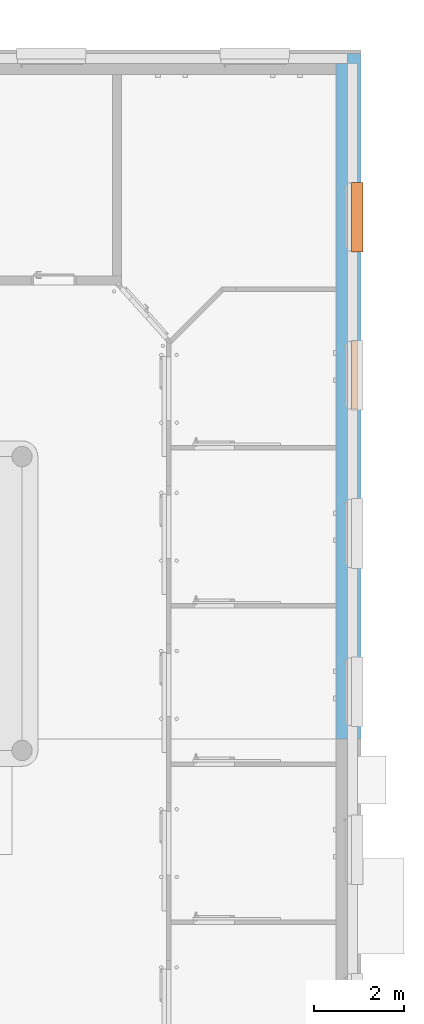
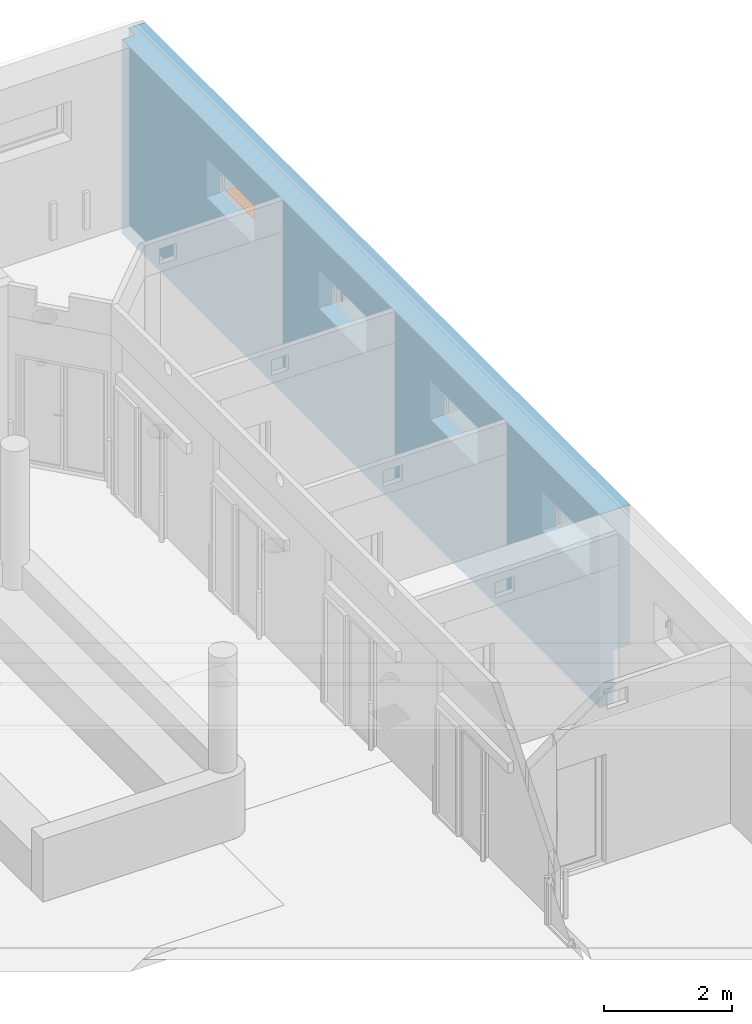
# One storey, part 119 of 140: 2 proxies, 4 openings, plus 1 element that does not belong to this part.
"""IFC4 building model written with IfcOpenShell, lengths in metres."""

from ifc_helpers import new_model, entity, si_unit, converted_unit, derived_unit, frame, origin, origin_with_axes, place, context, subcontext, project, spatial, polyline, outline, extrude, clip, bounded_halfspace, faceted_brep, source, transform, mapped, material, layer, layer_set, layer_usage, element, fill, save


model = new_model("IFC4")

# Units and contexts
model_context = context("Model", 3, precision=1e-05, world=origin())
body_context = subcontext(model_context, "Body", "Model", "MODEL_VIEW")
ifc_project = project(units=[si_unit("LENGTHUNIT", "METRE"), si_unit("AREAUNIT", "SQUARE_METRE"), si_unit("VOLUMEUNIT", "CUBIC_METRE"), si_unit("MASSUNIT", "GRAM", prefix="KILO"), converted_unit("PLANEANGLEUNIT", "DEGREE", entity("IfcPlaneAngleMeasure", 0.0174532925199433), si_unit("PLANEANGLEUNIT", "RADIAN"), dimensions=[0, 0, 0, 0, 0, 0, 0]), derived_unit("THERMALTRANSMITTANCEUNIT", [(si_unit("POWERUNIT", "WATT"), 1), (si_unit("THERMODYNAMICTEMPERATUREUNIT", "KELVIN"), -1), (si_unit("LENGTHUNIT", "METRE"), -2)]), derived_unit("VOLUMETRICFLOWRATEUNIT", [(si_unit("LENGTHUNIT", "METRE"), 3), (converted_unit("TIMEUNIT", "hour", entity("IfcTimeMeasure", 3600.0), si_unit("TIMEUNIT", "SECOND"), dimensions=[0, 0, 1, 0, 0, 0, 0]), -1), (si_unit("LENGTHUNIT", "METRE"), -1)])], contexts=[model_context])

# Site, building, storey
site_placement = place(None, origin())
site = spatial("IfcSite", under=ifc_project, at=site_placement, Name="3. ASŘ", CompositionType="ELEMENT")
building_placement = place(site_placement, origin())
building = spatial("IfcBuilding", under=site, at=building_placement, Name="Pavilon C", CompositionType="ELEMENT")
storey_placement = place(building_placement, origin())
storey = spatial("IfcBuildingStorey", under=building, at=storey_placement, Name="Půdorys 1.NP", CompositionType="ELEMENT", Elevation=0.0)

# Wall, openings, proxies
ifc_material_1 = material(Name="ZELEZOBETONOVÁ KCE")
ifc_layer_1 = layer(ifc_material_1, 0.25)
ifc_material_2 = material(Name="MINERÁLNÍ VATA")
ifc_layer_2 = layer(ifc_material_2, 0.3)
ifc_layer_set = layer_set([ifc_layer_1, ifc_layer_2])
ifc_layer_usage = layer_usage(ifc_layer_set, "AXIS2", "POSITIVE", 0.0)
wall_placement = place(storey_placement, frame((63.55, 32.55, -0.3), z_axis=(0.0, 0.0, 1.0), x_axis=(0.0, -1.0, 0.0)))
wall = element("IfcWall", 1, at=wall_placement, inside=storey, material=ifc_layer_usage, Name="ZELEZOBETONOVÁ KCE", context=body_context, shape_type="Clipping", body=[
    clip(extrude(outline(polyline([(-15.17, 0.55), (-15.17, 0.25), (-14.95, 0.25), (-14.95, 0.0), (0.0, 0.0), (0.0, 0.55), (-15.17, 0.55)])), frame((14.95, 0.0, 0.0), z_axis=(0.0, 0.0, 1.0), x_axis=(1.0, 0.0, 0.0)), (0.0, 0.0, 1.0), 3.7), bounded_halfspace(frame((5.892, 0.37, 1.02), z_axis=(0.0, 0.0, 1.0), x_axis=(0.0, -1.0, 0.0)), True, origin_with_axes(), polyline([(-0.22, 0.55), (-0.22, 0.25), (0.0, 0.249999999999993), (14.95, 0.249999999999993), (14.95, 0.55), (-0.22, 0.55)]))),
])
opening_1_placement = place(wall_placement, frame((11.15, 0.25, 2.3), z_axis=(0.0, -1.0, 0.0), x_axis=(0.0, 0.0, 1.0)))
element("IfcOpeningElement", 2, at=opening_1_placement, cuts=wall, Name="Okenní otvor", ObjectType="Opening", context=body_context, shape_type="SweptSolid", body=[
    extrude(outline(polyline([(0.0, 1.5), (0.75, 1.5), (0.75, 0.0), (0.0, 0.0), (0.0, 1.5)])), origin_with_axes(), (0.0, 0.0, 1.0), 0.25),
    extrude(outline(polyline([(0.0, 1.5), (0.75, 1.5), (0.75, 0.0), (0.0, 0.0), (0.0, 1.5)])), frame((0.0, 0.0, -0.3), z_axis=(0.0, 0.0, 1.0), x_axis=(1.0, 0.0, 0.0)), (0.0, 0.0, 1.0), 0.3),
])
opening_2_placement = place(wall_placement, frame((7.65000000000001, 0.25, 2.3), z_axis=(0.0, -1.0, 0.0), x_axis=(0.0, 0.0, 1.0)))
opening_2 = element("IfcOpeningElement", 3, at=opening_2_placement, cuts=wall, Name="Okenní otvor", ObjectType="Opening", context=body_context, shape_type="SweptSolid", body=[
    extrude(outline(polyline([(0.0, 1.5), (0.75, 1.5), (0.75, 0.0), (0.0, 0.0), (0.0, 1.5)])), origin_with_axes(), (0.0, 0.0, 1.0), 0.25),
    extrude(outline(polyline([(0.0, 1.5), (0.75, 1.5), (0.75, 0.0), (0.0, 0.0), (0.0, 1.5)])), frame((0.0, 0.0, -0.3), z_axis=(0.0, 0.0, 1.0), x_axis=(1.0, 0.0, 0.0)), (0.0, 0.0, 1.0), 0.3),
])
opening_3_placement = place(wall_placement, frame((4.15000000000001, 0.25, 2.3), z_axis=(0.0, -1.0, 0.0), x_axis=(0.0, 0.0, 1.0)))
opening_3 = element("IfcOpeningElement", 4, at=opening_3_placement, cuts=wall, Name="Okenní otvor", ObjectType="Opening", context=body_context, shape_type="SweptSolid", body=[
    extrude(outline(polyline([(0.0, 1.5), (0.75, 1.5), (0.75, 0.0), (0.0, 0.0), (0.0, 1.5)])), origin_with_axes(), (0.0, 0.0, 1.0), 0.25),
    extrude(outline(polyline([(0.0, 1.5), (0.75, 1.5), (0.75, 0.0), (0.0, 0.0), (0.0, 1.5)])), frame((0.0, 0.0, -0.3), z_axis=(0.0, 0.0, 1.0), x_axis=(1.0, 0.0, 0.0)), (0.0, 0.0, 1.0), 0.3),
])
opening_4_placement = place(wall_placement, frame((14.65, 0.25, 2.3), z_axis=(0.0, -1.0, 0.0), x_axis=(0.0, 0.0, 1.0)))
element("IfcOpeningElement", 5, at=opening_4_placement, cuts=wall, Name="Okenní otvor", ObjectType="Opening", context=body_context, shape_type="SweptSolid", body=[
    extrude(outline(polyline([(0.0, 1.5), (0.75, 1.5), (0.75, 0.0), (0.0, 0.0), (0.0, 1.5)])), origin_with_axes(), (0.0, 0.0, 1.0), 0.25),
    extrude(outline(polyline([(0.0, 1.5), (0.75, 1.5), (0.75, 0.0), (0.0, 0.0), (0.0, 1.5)])), frame((0.0, 0.0, -0.3), z_axis=(0.0, 0.0, 1.0), x_axis=(1.0, 0.0, 0.0)), (0.0, 0.0, 1.0), 0.3),
])
shared_shape_1 = source(origin_with_axes(), body_context, "Body", "Brep", [
    faceted_brep([(-7.27595761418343e-15, -0.231999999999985, 0.75), (-7.27595761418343e-15, -0.229999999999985, 0.75), (-7.27595761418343e-15, -0.229999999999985, 0.948), (-7.27595761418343e-15, -0.0939999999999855, 0.948), (-7.27595761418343e-15, -0.0939999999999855, 0.75), (-7.27595761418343e-15, -0.0919999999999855, 0.75), (-7.27595761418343e-15, -0.0919999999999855, 0.95), (-7.27595761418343e-15, -0.231999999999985, 0.95), (1.49999999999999, -0.229999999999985, 0.75), (1.49999999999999, -0.231999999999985, 0.75), (1.49999999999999, -0.231999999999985, 0.95), (1.49999999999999, -0.0919999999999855, 0.95), (1.49999999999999, -0.0919999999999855, 0.75), (1.49999999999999, -0.0939999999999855, 0.75), (1.49999999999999, -0.0939999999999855, 0.948), (1.49999999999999, -0.229999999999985, 0.948)], [[[0, 1, 2, 3, 4, 5, 6, 7]], [[8, 9, 10, 11, 12, 13, 14, 15]], [[1, 0, 9, 8]], [[2, 1, 8, 15]], [[3, 2, 15, 14]], [[4, 3, 14, 13]], [[5, 4, 13, 12]], [[6, 5, 12, 11]], [[7, 6, 11, 10]], [[0, 7, 10, 9]]], orient=[[False], [False], [False], [False], [False], [False], [False], [False], [False], [False]]),
    faceted_brep([(-7.27595761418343e-15, -0.229999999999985, 0.75), (-7.27595761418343e-15, -0.0939999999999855, 0.75), (-7.27595761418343e-15, -0.0939999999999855, 0.948), (-7.27595761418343e-15, -0.229999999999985, 0.948), (0.00199999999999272, -0.0939999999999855, 0.75), (0.00199999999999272, -0.229999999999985, 0.75), (0.00199999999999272, -0.229999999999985, 0.948), (0.00199999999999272, -0.0939999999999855, 0.948)], [[[0, 1, 2, 3]], [[4, 5, 6, 7]], [[1, 0, 5, 4]], [[2, 1, 4, 7]], [[3, 2, 7, 6]], [[0, 3, 6, 5]]], orient=[[False], [False], [False], [False], [False], [False]]),
    faceted_brep([(1.49799999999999, -0.229999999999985, 0.75), (1.49799999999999, -0.0939999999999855, 0.75), (1.49799999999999, -0.0939999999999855, 0.948), (1.49799999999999, -0.229999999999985, 0.948), (1.49999999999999, -0.0939999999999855, 0.75), (1.49999999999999, -0.229999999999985, 0.75), (1.49999999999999, -0.229999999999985, 0.948), (1.49999999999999, -0.0939999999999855, 0.948)], [[[0, 1, 2, 3]], [[4, 5, 6, 7]], [[1, 0, 5, 4]], [[2, 1, 4, 7]], [[3, 2, 7, 6]], [[0, 3, 6, 5]]], orient=[[False], [False], [False], [False], [False], [False]]),
    faceted_brep([(0.00199999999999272, -0.151999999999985, 0.0), (0.00199999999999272, -0.171999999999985, 0.0), (0.0419999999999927, -0.171999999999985, 0.0), (0.0419999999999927, -0.151999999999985, 0.0), (0.00199999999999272, -0.171999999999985, 0.769), (0.00199999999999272, -0.151999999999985, 0.769), (0.0419999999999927, -0.151999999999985, 0.769), (0.0419999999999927, -0.171999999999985, 0.769)], [[[0, 1, 2, 3]], [[4, 5, 6, 7]], [[1, 0, 5, 4]], [[2, 1, 4, 7]], [[3, 2, 7, 6]], [[0, 3, 6, 5]]], orient=[[False], [False], [False], [False], [False], [False]]),
    faceted_brep([(1.45799999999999, -0.151999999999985, 0.0), (1.45799999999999, -0.171999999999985, 0.0), (1.49799999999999, -0.171999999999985, 0.0), (1.49799999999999, -0.151999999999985, 0.0), (1.45799999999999, -0.171999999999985, 0.769), (1.45799999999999, -0.151999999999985, 0.769), (1.49799999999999, -0.151999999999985, 0.769), (1.49799999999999, -0.171999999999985, 0.769)], [[[0, 1, 2, 3]], [[4, 5, 6, 7]], [[1, 0, 5, 4]], [[2, 1, 4, 7]], [[3, 2, 7, 6]], [[0, 3, 6, 5]]], orient=[[False], [False], [False], [False], [False], [False]]),
    faceted_brep([(0.0419999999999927, -0.121999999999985, 0.6021), (0.0419999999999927, -0.201999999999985, 0.6021), (0.0419999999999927, -0.201999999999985, 0.5871), (0.0419999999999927, -0.121999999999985, 0.5871), (1.45799999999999, -0.201999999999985, 0.6021), (1.45799999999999, -0.121999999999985, 0.6021), (1.45799999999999, -0.121999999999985, 0.5871), (1.45799999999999, -0.201999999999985, 0.5871)], [[[0, 1, 2, 3]], [[4, 5, 6, 7]], [[1, 0, 5, 4]], [[2, 1, 4, 7]], [[3, 2, 7, 6]], [[0, 3, 6, 5]]], orient=[[False], [False], [False], [False], [False], [False]]),
    faceted_brep([(0.0419999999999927, -0.121999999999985, 0.6031), (0.0419999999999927, -0.201999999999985, 0.6031), (0.0419999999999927, -0.201999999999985, 0.6021), (0.0419999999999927, -0.121999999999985, 0.6021), (1.45799999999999, -0.201999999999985, 0.6031), (1.45799999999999, -0.121999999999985, 0.6031), (1.45799999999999, -0.121999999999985, 0.6021), (1.45799999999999, -0.201999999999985, 0.6021)], [[[0, 1, 2, 3]], [[4, 5, 6, 7]], [[1, 0, 5, 4]], [[2, 1, 4, 7]], [[3, 2, 7, 6]], [[0, 3, 6, 5]]], orient=[[False], [False], [False], [False], [False], [False]]),
    faceted_brep([(0.0419999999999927, -0.121999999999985, 0.6041), (0.0419999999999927, -0.201999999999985, 0.6041), (0.0419999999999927, -0.201999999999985, 0.6031), (0.0419999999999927, -0.121999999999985, 0.6031), (1.45799999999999, -0.201999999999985, 0.6041), (1.45799999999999, -0.121999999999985, 0.6041), (1.45799999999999, -0.121999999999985, 0.6031), (1.45799999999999, -0.201999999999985, 0.6031)], [[[0, 1, 2, 3]], [[4, 5, 6, 7]], [[1, 0, 5, 4]], [[2, 1, 4, 7]], [[3, 2, 7, 6]], [[0, 3, 6, 5]]], orient=[[False], [False], [False], [False], [False], [False]]),
    faceted_brep([(0.0419999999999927, -0.121999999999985, 0.6051), (0.0419999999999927, -0.201999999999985, 0.6051), (0.0419999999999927, -0.201999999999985, 0.6041), (0.0419999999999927, -0.121999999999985, 0.6041), (1.45799999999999, -0.201999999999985, 0.6051), (1.45799999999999, -0.121999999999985, 0.6051), (1.45799999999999, -0.121999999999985, 0.6041), (1.45799999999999, -0.201999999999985, 0.6041)], [[[0, 1, 2, 3]], [[4, 5, 6, 7]], [[1, 0, 5, 4]], [[2, 1, 4, 7]], [[3, 2, 7, 6]], [[0, 3, 6, 5]]], orient=[[False], [False], [False], [False], [False], [False]]),
    faceted_brep([(0.0419999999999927, -0.121999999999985, 0.6061), (0.0419999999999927, -0.201999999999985, 0.6061), (0.0419999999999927, -0.201999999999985, 0.6051), (0.0419999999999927, -0.121999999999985, 0.6051), (1.45799999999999, -0.201999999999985, 0.6061), (1.45799999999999, -0.121999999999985, 0.6061), (1.45799999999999, -0.121999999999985, 0.6051), (1.45799999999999, -0.201999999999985, 0.6051)], [[[0, 1, 2, 3]], [[4, 5, 6, 7]], [[1, 0, 5, 4]], [[2, 1, 4, 7]], [[3, 2, 7, 6]], [[0, 3, 6, 5]]], orient=[[False], [False], [False], [False], [False], [False]]),
    faceted_brep([(0.0419999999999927, -0.121999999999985, 0.6071), (0.0419999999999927, -0.201999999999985, 0.6071), (0.0419999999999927, -0.201999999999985, 0.6061), (0.0419999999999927, -0.121999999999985, 0.6061), (1.45799999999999, -0.201999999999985, 0.6071), (1.45799999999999, -0.121999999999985, 0.6071), (1.45799999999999, -0.121999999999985, 0.6061), (1.45799999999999, -0.201999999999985, 0.6061)], [[[0, 1, 2, 3]], [[4, 5, 6, 7]], [[1, 0, 5, 4]], [[2, 1, 4, 7]], [[3, 2, 7, 6]], [[0, 3, 6, 5]]], orient=[[False], [False], [False], [False], [False], [False]]),
    faceted_brep([(0.0419999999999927, -0.121999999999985, 0.6081), (0.0419999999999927, -0.201999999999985, 0.6081), (0.0419999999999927, -0.201999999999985, 0.6071), (0.0419999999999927, -0.121999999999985, 0.6071), (1.45799999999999, -0.201999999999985, 0.6081), (1.45799999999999, -0.121999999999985, 0.6081), (1.45799999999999, -0.121999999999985, 0.6071), (1.45799999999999, -0.201999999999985, 0.6071)], [[[0, 1, 2, 3]], [[4, 5, 6, 7]], [[1, 0, 5, 4]], [[2, 1, 4, 7]], [[3, 2, 7, 6]], [[0, 3, 6, 5]]], orient=[[False], [False], [False], [False], [False], [False]]),
    faceted_brep([(0.0419999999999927, -0.121999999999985, 0.6091), (0.0419999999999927, -0.201999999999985, 0.6091), (0.0419999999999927, -0.201999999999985, 0.6081), (0.0419999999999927, -0.121999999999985, 0.6081), (1.45799999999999, -0.201999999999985, 0.6091), (1.45799999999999, -0.121999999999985, 0.6091), (1.45799999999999, -0.121999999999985, 0.6081), (1.45799999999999, -0.201999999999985, 0.6081)], [[[0, 1, 2, 3]], [[4, 5, 6, 7]], [[1, 0, 5, 4]], [[2, 1, 4, 7]], [[3, 2, 7, 6]], [[0, 3, 6, 5]]], orient=[[False], [False], [False], [False], [False], [False]]),
    faceted_brep([(0.0419999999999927, -0.121999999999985, 0.6101), (0.0419999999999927, -0.201999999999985, 0.6101), (0.0419999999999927, -0.201999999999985, 0.6091), (0.0419999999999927, -0.121999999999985, 0.6091), (1.45799999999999, -0.201999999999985, 0.6101), (1.45799999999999, -0.121999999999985, 0.6101), (1.45799999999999, -0.121999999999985, 0.6091), (1.45799999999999, -0.201999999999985, 0.6091)], [[[0, 1, 2, 3]], [[4, 5, 6, 7]], [[1, 0, 5, 4]], [[2, 1, 4, 7]], [[3, 2, 7, 6]], [[0, 3, 6, 5]]], orient=[[False], [False], [False], [False], [False], [False]]),
    faceted_brep([(0.0419999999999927, -0.121999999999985, 0.6111), (0.0419999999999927, -0.201999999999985, 0.6111), (0.0419999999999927, -0.201999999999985, 0.6101), (0.0419999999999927, -0.121999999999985, 0.6101), (1.45799999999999, -0.201999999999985, 0.6111), (1.45799999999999, -0.121999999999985, 0.6111), (1.45799999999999, -0.121999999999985, 0.6101), (1.45799999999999, -0.201999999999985, 0.6101)], [[[0, 1, 2, 3]], [[4, 5, 6, 7]], [[1, 0, 5, 4]], [[2, 1, 4, 7]], [[3, 2, 7, 6]], [[0, 3, 6, 5]]], orient=[[False], [False], [False], [False], [False], [False]]),
    faceted_brep([(0.0419999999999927, -0.121999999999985, 0.6121), (0.0419999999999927, -0.201999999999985, 0.6121), (0.0419999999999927, -0.201999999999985, 0.6111), (0.0419999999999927, -0.121999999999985, 0.6111), (1.45799999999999, -0.201999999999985, 0.6121), (1.45799999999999, -0.121999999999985, 0.6121), (1.45799999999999, -0.121999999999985, 0.6111), (1.45799999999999, -0.201999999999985, 0.6111)], [[[0, 1, 2, 3]], [[4, 5, 6, 7]], [[1, 0, 5, 4]], [[2, 1, 4, 7]], [[3, 2, 7, 6]], [[0, 3, 6, 5]]], orient=[[False], [False], [False], [False], [False], [False]]),
    faceted_brep([(0.0419999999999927, -0.121999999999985, 0.6131), (0.0419999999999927, -0.201999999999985, 0.6131), (0.0419999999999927, -0.201999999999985, 0.6121), (0.0419999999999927, -0.121999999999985, 0.6121), (1.45799999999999, -0.201999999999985, 0.6131), (1.45799999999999, -0.121999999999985, 0.6131), (1.45799999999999, -0.121999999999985, 0.6121), (1.45799999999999, -0.201999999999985, 0.6121)], [[[0, 1, 2, 3]], [[4, 5, 6, 7]], [[1, 0, 5, 4]], [[2, 1, 4, 7]], [[3, 2, 7, 6]], [[0, 3, 6, 5]]], orient=[[False], [False], [False], [False], [False], [False]]),
    faceted_brep([(0.0419999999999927, -0.121999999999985, 0.6141), (0.0419999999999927, -0.201999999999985, 0.6141), (0.0419999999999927, -0.201999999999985, 0.6131), (0.0419999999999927, -0.121999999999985, 0.6131), (1.45799999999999, -0.201999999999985, 0.6141), (1.45799999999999, -0.121999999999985, 0.6141), (1.45799999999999, -0.121999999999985, 0.6131), (1.45799999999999, -0.201999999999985, 0.6131)], [[[0, 1, 2, 3]], [[4, 5, 6, 7]], [[1, 0, 5, 4]], [[2, 1, 4, 7]], [[3, 2, 7, 6]], [[0, 3, 6, 5]]], orient=[[False], [False], [False], [False], [False], [False]]),
    faceted_brep([(0.0419999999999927, -0.121999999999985, 0.6151), (0.0419999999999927, -0.201999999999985, 0.6151), (0.0419999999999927, -0.201999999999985, 0.6141), (0.0419999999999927, -0.121999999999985, 0.6141), (1.45799999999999, -0.201999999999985, 0.6151), (1.45799999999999, -0.121999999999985, 0.6151), (1.45799999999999, -0.121999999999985, 0.6141), (1.45799999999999, -0.201999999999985, 0.6141)], [[[0, 1, 2, 3]], [[4, 5, 6, 7]], [[1, 0, 5, 4]], [[2, 1, 4, 7]], [[3, 2, 7, 6]], [[0, 3, 6, 5]]], orient=[[False], [False], [False], [False], [False], [False]]),
    faceted_brep([(0.0419999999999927, -0.121999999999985, 0.6161), (0.0419999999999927, -0.201999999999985, 0.6161), (0.0419999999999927, -0.201999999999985, 0.6151), (0.0419999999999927, -0.121999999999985, 0.6151), (1.45799999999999, -0.201999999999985, 0.6161), (1.45799999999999, -0.121999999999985, 0.6161), (1.45799999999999, -0.121999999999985, 0.6151), (1.45799999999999, -0.201999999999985, 0.6151)], [[[0, 1, 2, 3]], [[4, 5, 6, 7]], [[1, 0, 5, 4]], [[2, 1, 4, 7]], [[3, 2, 7, 6]], [[0, 3, 6, 5]]], orient=[[False], [False], [False], [False], [False], [False]]),
    faceted_brep([(0.0419999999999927, -0.123299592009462, 0.645125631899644), (0.0419999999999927, -0.200941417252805, 0.625844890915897), (0.0419999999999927, -0.200700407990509, 0.624874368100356), (0.0419999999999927, -0.123058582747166, 0.644155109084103), (1.45799999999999, -0.200941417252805, 0.625844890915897), (1.45799999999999, -0.123299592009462, 0.645125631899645), (1.45799999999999, -0.123058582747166, 0.644155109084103), (1.45799999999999, -0.200700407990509, 0.624874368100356)], [[[0, 1, 2, 3]], [[4, 5, 6, 7]], [[1, 0, 5, 4]], [[2, 1, 4, 7]], [[3, 2, 7, 6]], [[0, 3, 6, 5]]], orient=[[False], [False], [False], [False], [False], [False]]),
    faceted_brep([(0.0419999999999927, -0.127608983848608, 0.700433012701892), (0.0419999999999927, -0.196891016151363, 0.660433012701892), (0.0419999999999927, -0.196391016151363, 0.659566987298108), (0.0419999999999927, -0.127108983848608, 0.699566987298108), (1.45799999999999, -0.196891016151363, 0.660433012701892), (1.45799999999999, -0.127608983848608, 0.700433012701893), (1.45799999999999, -0.127108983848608, 0.699566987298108), (1.45799999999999, -0.196391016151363, 0.659566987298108)], [[[0, 1, 2, 3]], [[4, 5, 6, 7]], [[1, 0, 5, 4]], [[2, 1, 4, 7]], [[3, 2, 7, 6]], [[0, 3, 6, 5]]], orient=[[False], [False], [False], [False], [False], [False]]),
    faceted_brep([(0.0419999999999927, -0.127608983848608, 0.745433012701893), (0.0419999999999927, -0.196891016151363, 0.705433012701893), (0.0419999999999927, -0.196391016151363, 0.704566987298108), (0.0419999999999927, -0.127108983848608, 0.744566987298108), (1.45799999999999, -0.196891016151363, 0.705433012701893), (1.45799999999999, -0.127608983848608, 0.745433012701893), (1.45799999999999, -0.127108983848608, 0.744566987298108), (1.45799999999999, -0.196391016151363, 0.704566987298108)], [[[0, 1, 2, 3]], [[4, 5, 6, 7]], [[1, 0, 5, 4]], [[2, 1, 4, 7]], [[3, 2, 7, 6]], [[0, 3, 6, 5]]], orient=[[False], [False], [False], [False], [False], [False]]),
])
proxy_1_placement = place(opening_2_placement, frame((0.0, 0.0, 0.0), z_axis=(1.0, 0.0, 0.0), x_axis=(0.0, 1.0, 0.0)))
proxy_1 = element("IfcBuildingElementProxy", 6, at=proxy_1_placement, inside=storey, Name="Žaluzie", context=body_context, shape_type="MappedRepresentation", body=[
    mapped(shared_shape_1, transform((0.0, 0.0, 0.0), x_axis=(1.0, 0.0, 0.0), y_axis=(0.0, 1.0, 0.0), z_axis=(0.0, 0.0, 1.0), scale=1.0)),
])
fill(opening_2, proxy_1)
ifc_material_3 = material(Name="HLINÍKOVÝ PLECH ELOXOVANÝ")
shared_shape_2 = source(origin_with_axes(), body_context, "Body", "Brep", [
    faceted_brep([(-7.27595761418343e-15, -0.299999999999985, 0.0), (-7.27595761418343e-15, -0.0919999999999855, 0.0), (-7.27595761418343e-15, -0.0919999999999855, 0.005), (-7.27595761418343e-15, -0.299999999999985, 0.005), (1.49999999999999, -0.299999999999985, 0.0), (1.49999999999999, -0.299999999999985, 0.005), (1.49999999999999, -0.0919999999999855, 0.005), (1.49999999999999, -0.0919999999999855, 0.0), (-0.0200000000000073, -0.299999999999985, 0.0), (-0.0200000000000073, -0.334999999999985, 0.0), (1.51999999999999, -0.334999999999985, 0.0), (1.51999999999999, -0.299999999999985, 0.0), (1.51999999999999, -0.299999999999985, 0.005), (1.51999999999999, -0.339999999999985, 0.005), (-0.0200000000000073, -0.339999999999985, 0.005), (-0.0200000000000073, -0.299999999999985, 0.005), (-0.0200000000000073, -0.339999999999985, -0.025), (-0.0200000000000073, -0.334999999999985, -0.025), (1.51999999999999, -0.334999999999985, -0.025), (1.51999999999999, -0.339999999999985, -0.025)], [[[0, 1, 2, 3]], [[4, 5, 6, 7]], [[1, 0, 8, 9, 10, 11, 4, 7]], [[2, 1, 7, 6]], [[3, 2, 6, 5, 12, 13, 14, 15]], [[8, 15, 14, 16, 17, 9]], [[11, 10, 18, 19, 13, 12]], [[15, 8, 0, 3]], [[5, 4, 11, 12]], [[16, 14, 13, 19]], [[17, 16, 19, 18]], [[9, 17, 18, 10]]], orient=[[False], [False], [False], [False], [False], [False], [False], [False], [False], [False], [False], [False]]),
    faceted_brep([(-0.0200000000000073, -0.299999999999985, 0.0), (-0.0200000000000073, -0.0919999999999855, 0.0), (-0.0200000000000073, -0.0919999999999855, 0.005), (-0.0200000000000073, -0.299999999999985, 0.005), (-7.27595761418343e-15, -0.299999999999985, 0.0), (-7.27595761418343e-15, -0.299999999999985, 0.005), (-7.27595761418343e-15, -0.0919999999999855, 0.005), (-7.27595761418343e-15, -0.0919999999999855, 0.0)], [[[0, 1, 2, 3]], [[4, 5, 6, 7]], [[1, 0, 4, 7]], [[2, 1, 7, 6]], [[3, 2, 6, 5]], [[0, 3, 5, 4]]], orient=[[False], [False], [False], [False], [False], [False]]),
    faceted_brep([(1.49999999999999, -0.299999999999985, 0.0), (1.49999999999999, -0.0919999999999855, 0.0), (1.49999999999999, -0.0919999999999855, 0.005), (1.49999999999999, -0.299999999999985, 0.005), (1.51999999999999, -0.299999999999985, 0.0), (1.51999999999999, -0.299999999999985, 0.005), (1.51999999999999, -0.0919999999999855, 0.005), (1.51999999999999, -0.0919999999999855, 0.0)], [[[0, 1, 2, 3]], [[4, 5, 6, 7]], [[1, 0, 4, 7]], [[2, 1, 7, 6]], [[3, 2, 6, 5]], [[0, 3, 5, 4]]], orient=[[False], [False], [False], [False], [False], [False]]),
])
proxy_2_placement = place(opening_3_placement, frame((0.0, 0.0, 0.0), z_axis=(1.0, 0.0, 0.0), x_axis=(0.0, 1.0, 0.0)))
proxy_2 = element("IfcBuildingElementProxy", 7, at=proxy_2_placement, inside=storey, material=ifc_material_3, Name="Parapet vnější", context=body_context, shape_type="MappedRepresentation", body=[
    mapped(shared_shape_2, transform((0.0, 0.0, 0.0), x_axis=(1.0, 0.0, 0.0), y_axis=(0.0, 1.0, 0.0), z_axis=(0.0, 0.0, 1.0), scale=1.0)),
])
fill(opening_3, proxy_2)

save(model, "model.ifc")
